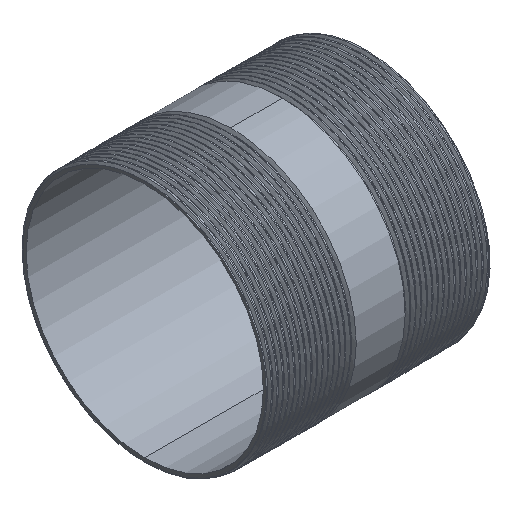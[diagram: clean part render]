
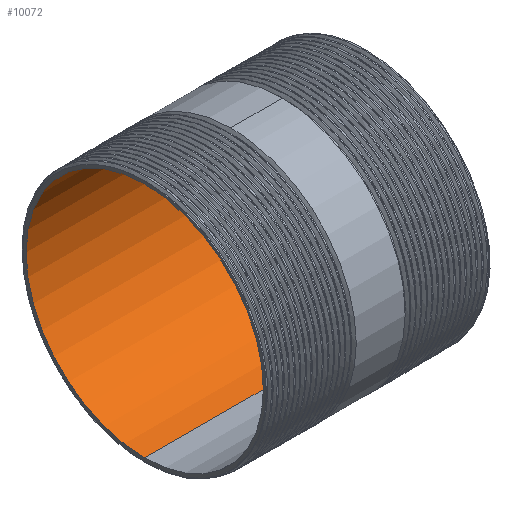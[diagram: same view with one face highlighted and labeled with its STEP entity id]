
A CAD part, isometric view. The second image highlights one B-rep face of the part: STEP entity #10072.
In plain terms, the highlighted cylindrical face has radius 42.45 mm (diameter 84.9 mm), a partial arc.
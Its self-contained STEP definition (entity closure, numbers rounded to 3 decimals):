
#243 = VERTEX_POINT ( 'NONE', #10395 ) ;
#766 = DIRECTION ( 'NONE',  ( -1., 0., 0. ) ) ;
#871 = VERTEX_POINT ( 'NONE', #15788 ) ;
#934 = DIRECTION ( 'NONE',  ( 0., 0., 1. ) ) ;
#1198 = CARTESIAN_POINT ( 'NONE',  ( 40., 0., 42.45 ) ) ;
#1380 = EDGE_CURVE ( 'NONE', #871, #243, #12109, .T. ) ;
#2109 = CARTESIAN_POINT ( 'NONE',  ( 40., 0., 0. ) ) ;
#3096 = VERTEX_POINT ( 'NONE', #5199 ) ;
#3323 = LINE ( 'NONE', #13628, #13416 ) ;
#4050 = VECTOR ( 'NONE', #4579, 1000. ) ;
#4579 = DIRECTION ( 'NONE',  ( -1., 0., 0. ) ) ;
#4741 = EDGE_CURVE ( 'NONE', #3096, #243, #15139, .T. ) ;
#4867 = EDGE_CURVE ( 'NONE', #5472, #871, #3323, .T. ) ;
#5199 = CARTESIAN_POINT ( 'NONE',  ( 40., 0., -42.45 ) ) ;
#5472 = VERTEX_POINT ( 'NONE', #1198 ) ;
#5484 = DIRECTION ( 'NONE',  ( -1., 0., 0. ) ) ;
#6207 = AXIS2_PLACEMENT_3D ( 'NONE', #11527, #5484, #11612 ) ;
#7181 = ORIENTED_EDGE ( 'NONE', *, *, #4867, .T. ) ;
#7188 = CARTESIAN_POINT ( 'NONE',  ( -149.494, 0., -42.45 ) ) ;
#7375 = ORIENTED_EDGE ( 'NONE', *, *, #15993, .F. ) ;
#7986 = EDGE_LOOP ( 'NONE', ( #16135, #7375, #7181, #8481 ) ) ;
#8481 = ORIENTED_EDGE ( 'NONE', *, *, #1380, .T. ) ;
#10072 = ADVANCED_FACE ( 'NONE', ( #11570 ), #15160, .F. ) ;
#10234 = CARTESIAN_POINT ( 'NONE',  ( -149.494, 0., 0. ) ) ;
#10395 = CARTESIAN_POINT ( 'NONE',  ( -40., 0., -42.45 ) ) ;
#11048 = AXIS2_PLACEMENT_3D ( 'NONE', #2109, #766, #934 ) ;
#11527 = CARTESIAN_POINT ( 'NONE',  ( -40., 0., 0. ) ) ;
#11570 = FACE_OUTER_BOUND ( 'NONE', #7986, .T. ) ;
#11612 = DIRECTION ( 'NONE',  ( 0., 0., 1. ) ) ;
#12109 = CIRCLE ( 'NONE', #6207, 42.45 ) ;
#13416 = VECTOR ( 'NONE', #15057, 1000. ) ;
#13628 = CARTESIAN_POINT ( 'NONE',  ( -149.494, 0., 42.45 ) ) ;
#13985 = CIRCLE ( 'NONE', #11048, 42.45 ) ;
#14082 = DIRECTION ( 'NONE',  ( 0., 0., 1. ) ) ;
#15057 = DIRECTION ( 'NONE',  ( -1., 0., 0. ) ) ;
#15139 = LINE ( 'NONE', #7188, #4050 ) ;
#15160 = CYLINDRICAL_SURFACE ( 'NONE', #16384, 42.45 ) ;
#15331 = DIRECTION ( 'NONE',  ( -1., 0., 0. ) ) ;
#15788 = CARTESIAN_POINT ( 'NONE',  ( -40., 0., 42.45 ) ) ;
#15993 = EDGE_CURVE ( 'NONE', #5472, #3096, #13985, .T. ) ;
#16135 = ORIENTED_EDGE ( 'NONE', *, *, #4741, .F. ) ;
#16384 = AXIS2_PLACEMENT_3D ( 'NONE', #10234, #15331, #14082 ) ;
